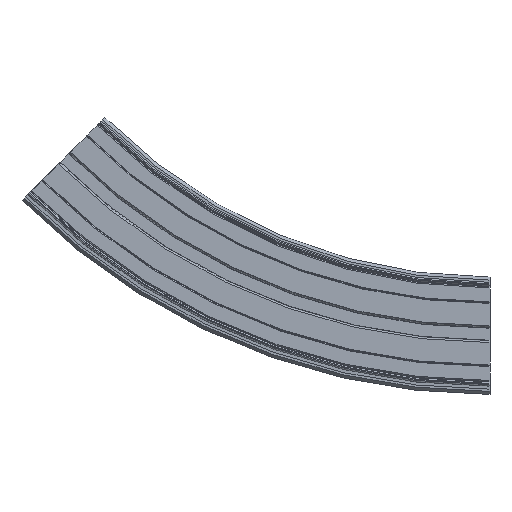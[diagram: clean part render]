
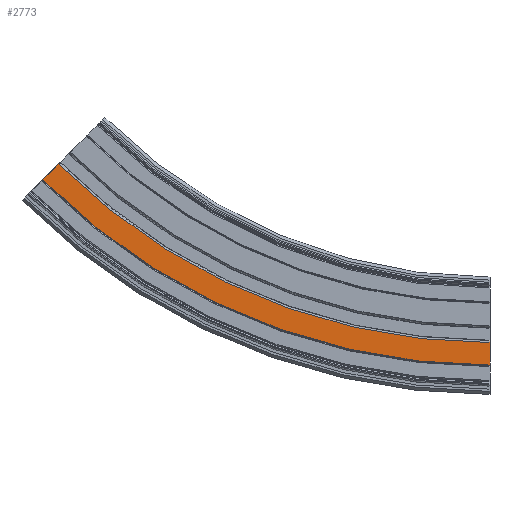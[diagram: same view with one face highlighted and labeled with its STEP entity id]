
A CAD part, left-side view. The second image highlights one B-rep face of the part: STEP entity #2773.
In plain terms, the highlighted planar face has unit normal (-1, 0, 0).
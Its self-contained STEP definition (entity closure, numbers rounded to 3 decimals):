
#267=CIRCLE('',#3020,405.5);
#268=CIRCLE('',#3022,420.5);
#442=FACE_OUTER_BOUND('',#596,.T.);
#596=EDGE_LOOP('',(#2171,#2172,#2173,#2174));
#773=LINE('',#9166,#979);
#774=LINE('',#9168,#980);
#979=VECTOR('',#3622,10.);
#980=VECTOR('',#3623,10.);
#1235=VERTEX_POINT('',#9159);
#1236=VERTEX_POINT('',#9161);
#1237=VERTEX_POINT('',#9165);
#1238=VERTEX_POINT('',#9167);
#1602=EDGE_CURVE('',#1235,#1236,#267,.T.);
#1603=EDGE_CURVE('',#1237,#1235,#773,.T.);
#1604=EDGE_CURVE('',#1238,#1236,#774,.T.);
#1605=EDGE_CURVE('',#1237,#1238,#268,.T.);
#2171=ORIENTED_EDGE('',*,*,#1603,.T.);
#2172=ORIENTED_EDGE('',*,*,#1602,.T.);
#2173=ORIENTED_EDGE('',*,*,#1604,.F.);
#2174=ORIENTED_EDGE('',*,*,#1605,.F.);
#2663=PLANE('',#3021);
#2773=ADVANCED_FACE('',(#442),#2663,.T.);
#3020=AXIS2_PLACEMENT_3D('',#9163,#3618,#3619);
#3021=AXIS2_PLACEMENT_3D('',#9164,#3620,#3621);
#3022=AXIS2_PLACEMENT_3D('',#9169,#3624,#3625);
#3618=DIRECTION('center_axis',(1.,0.,0.));
#3619=DIRECTION('ref_axis',(0.,0.,-1.));
#3620=DIRECTION('center_axis',(-1.,0.,0.));
#3621=DIRECTION('ref_axis',(0.,0.,1.));
#3622=DIRECTION('',(0.,0.,1.));
#3623=DIRECTION('',(0.,-0.707,0.707));
#3624=DIRECTION('center_axis',(1.,0.,0.));
#3625=DIRECTION('ref_axis',(0.,0.,-1.));
#9159=CARTESIAN_POINT('',(-32.,0.,-5.5));
#9161=CARTESIAN_POINT('',(-32.,286.732,113.268));
#9163=CARTESIAN_POINT('Origin',(-32.,0.,400.));
#9164=CARTESIAN_POINT('Origin',(-32.,0.,-20.5));
#9165=CARTESIAN_POINT('',(-32.,0.,-20.5));
#9166=CARTESIAN_POINT('',(-32.,0.,-20.5));
#9167=CARTESIAN_POINT('',(-32.,297.338,102.662));
#9168=CARTESIAN_POINT('',(-32.,297.338,102.662));
#9169=CARTESIAN_POINT('Origin',(-32.,0.,400.));
